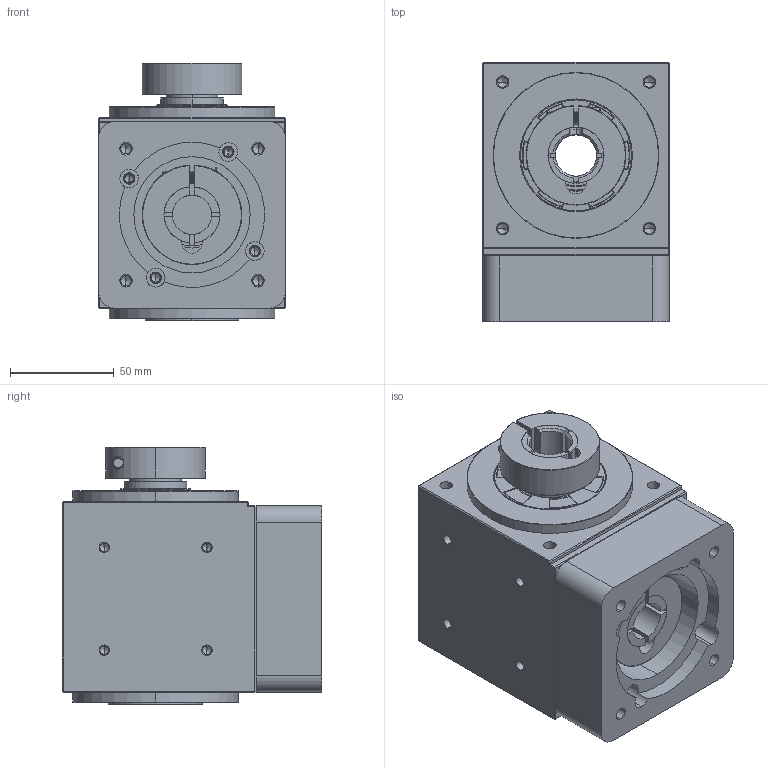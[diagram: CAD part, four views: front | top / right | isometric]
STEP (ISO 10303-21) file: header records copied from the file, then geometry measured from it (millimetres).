
FILE_DESCRIPTION (( 'STEP AP214' ), '1' );
FILE_NAME ('RH90-2(19-70-90-M6).STEP', '2019-01-14T02:45:25', ( '' ), ( '' ), 'SwSTEP 2.0', 'SolidWorks 2016', '' );
FILE_SCHEMA (( 'AUTOMOTIVE_DESIGN' ));
Length unit declared in the file: millimetre
Products named in the file (8): RH90-2(19-70-90-M6); R90-2(70-90-M6); SN90-48x27x15-M6; R90-45x75x7; RH90-(20x20-6x20); R90-2-(19); R90; R90-34x54x8
Assembly tree (8 placements, depth 2):
  RH90-2(19-70-90-M6)
    R90
    RH90-(20x20-6x20)
    R90-2-(19)
    R90-2(70-90-M6)
    R90-34x54x8
    R90-45x75x7
    SN90-48x27x15-M6  x2
Bounding box: 90 x 125.13 x 124 mm (x, y, z)
Volume: 805303.7 mm3; surface area: 174731.9 mm2
Topology: 10 solids, 10 shells, 796 faces, 1979 edges, 1206 vertices
Faces by surface type: cylinder 411, plane 149, cone 140, torus 52, bspline 44
Entity records: 36229 total; most frequent: CARTESIAN_POINT 20601, DIRECTION 3098, ORIENTED_EDGE 3056, EDGE_CURVE 1528, AXIS2_PLACEMENT_3D 1225, VERTEX_POINT 947, EDGE_LOOP 739, ADVANCED_FACE 654
